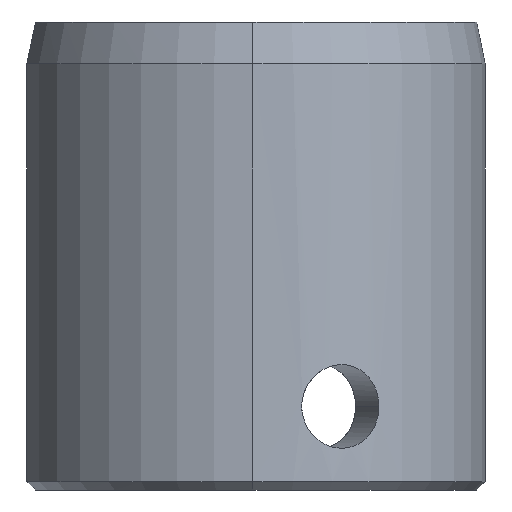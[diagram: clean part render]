
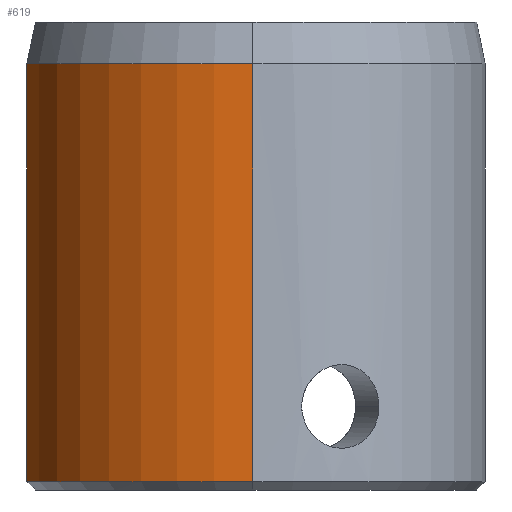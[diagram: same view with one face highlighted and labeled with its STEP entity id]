
A CAD part, left-side view. The second image highlights one B-rep face of the part: STEP entity #619.
In plain terms, the highlighted cylindrical face has radius 27.781 mm (diameter 55.562 mm), a partial arc.
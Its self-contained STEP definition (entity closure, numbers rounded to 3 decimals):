
#12 = CYLINDRICAL_SURFACE ( 'NONE', #857, 27.781 ) ;
#38 = VERTEX_POINT ( 'NONE', #1106 ) ;
#53 = VECTOR ( 'NONE', #776, 1000. ) ;
#59 = CARTESIAN_POINT ( 'NONE',  ( 0., 0., 28. ) ) ;
#64 = FACE_OUTER_BOUND ( 'NONE', #246, .T. ) ;
#114 = AXIS2_PLACEMENT_3D ( 'NONE', #641, #730, #822 ) ;
#149 = VERTEX_POINT ( 'NONE', #383 ) ;
#167 = DIRECTION ( 'NONE',  ( 0., 0., -1. ) ) ;
#193 = ORIENTED_EDGE ( 'NONE', *, *, #970, .T. ) ;
#208 = VERTEX_POINT ( 'NONE', #462 ) ;
#231 = AXIS2_PLACEMENT_3D ( 'NONE', #243, #333, #872 ) ;
#243 = CARTESIAN_POINT ( 'NONE',  ( 0., 0., -27. ) ) ;
#246 = EDGE_LOOP ( 'NONE', ( #698, #334, #193, #530 ) ) ;
#250 = EDGE_CURVE ( 'NONE', #208, #38, #331, .T. ) ;
#277 = VECTOR ( 'NONE', #167, 1000. ) ;
#331 = LINE ( 'NONE', #345, #277 ) ;
#333 = DIRECTION ( 'NONE',  ( 0., 0., 1. ) ) ;
#334 = ORIENTED_EDGE ( 'NONE', *, *, #736, .T. ) ;
#345 = CARTESIAN_POINT ( 'NONE',  ( -27.781, 0., 28. ) ) ;
#383 = CARTESIAN_POINT ( 'NONE',  ( -6.35, 27.046, -27. ) ) ;
#435 = CIRCLE ( 'NONE', #114, 27.781 ) ;
#462 = CARTESIAN_POINT ( 'NONE',  ( -27.781, 0., 23. ) ) ;
#492 = CARTESIAN_POINT ( 'NONE',  ( -6.35, 27.046, 23. ) ) ;
#530 = ORIENTED_EDGE ( 'NONE', *, *, #791, .T. ) ;
#585 = DIRECTION ( 'NONE',  ( 0., 0., -1. ) ) ;
#588 = DIRECTION ( 'NONE',  ( -1., 0., 0. ) ) ;
#619 = ADVANCED_FACE ( 'NONE', ( #64 ), #12, .T. ) ;
#641 = CARTESIAN_POINT ( 'NONE',  ( 0., 0., 23. ) ) ;
#698 = ORIENTED_EDGE ( 'NONE', *, *, #250, .F. ) ;
#730 = DIRECTION ( 'NONE',  ( 0., 0., -1. ) ) ;
#736 = EDGE_CURVE ( 'NONE', #208, #882, #435, .T. ) ;
#776 = DIRECTION ( 'NONE',  ( 0., 0., -1. ) ) ;
#791 = EDGE_CURVE ( 'NONE', #149, #38, #844, .T. ) ;
#822 = DIRECTION ( 'NONE',  ( 1., 0., 0. ) ) ;
#844 = CIRCLE ( 'NONE', #231, 27.781 ) ;
#857 = AXIS2_PLACEMENT_3D ( 'NONE', #59, #585, #588 ) ;
#872 = DIRECTION ( 'NONE',  ( 1., 0., 0. ) ) ;
#882 = VERTEX_POINT ( 'NONE', #492 ) ;
#970 = EDGE_CURVE ( 'NONE', #882, #149, #1018, .T. ) ;
#1018 = LINE ( 'NONE', #1128, #53 ) ;
#1106 = CARTESIAN_POINT ( 'NONE',  ( -27.781, 0., -27. ) ) ;
#1128 = CARTESIAN_POINT ( 'NONE',  ( -6.35, 27.046, 28. ) ) ;
